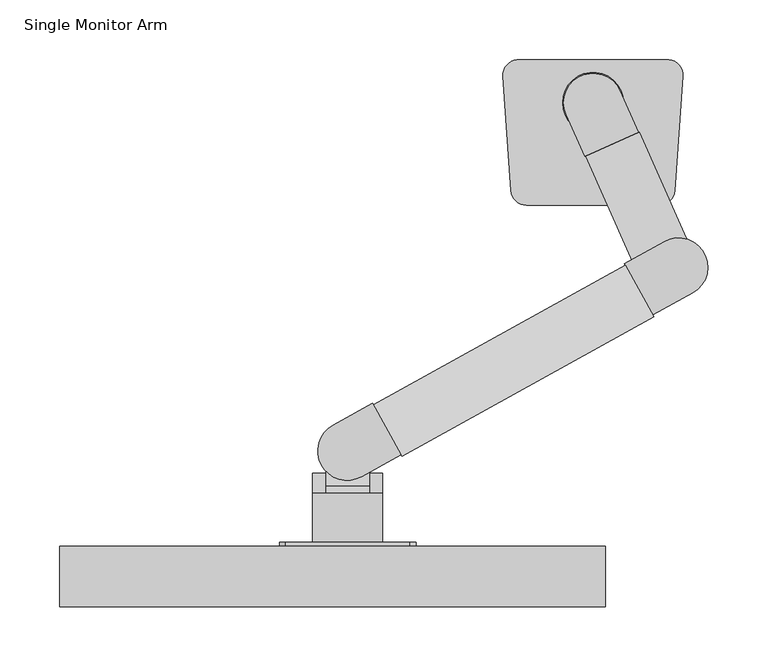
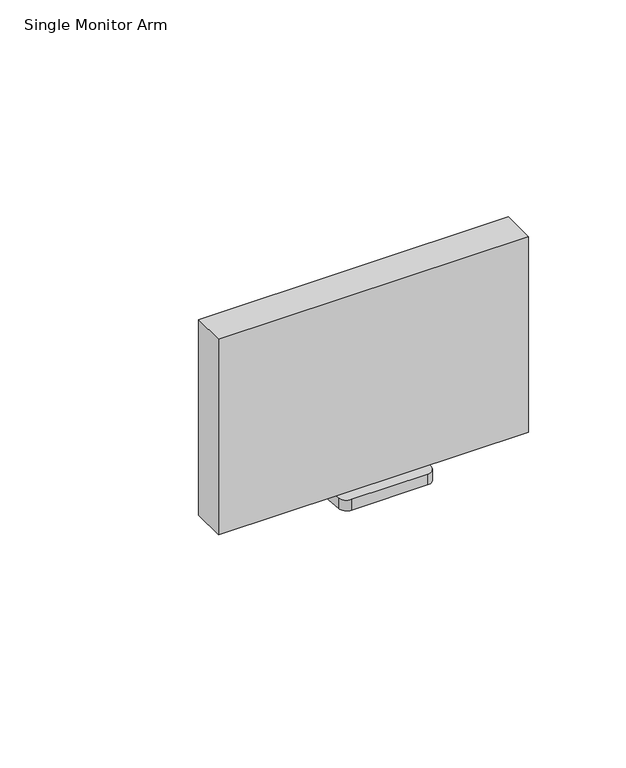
"""IFC4 building model written with IfcOpenShell, lengths in millimetres: furniture geometry, Haworth_Ergotron_MonitorArm_LX Dual : Single Monitor Arm."""

import ifcopenshell
import ifcopenshell.guid

model = None  # the IFC model being written
_history = None  # IfcOwnerHistory: only IFC2X3 demands one
_inside = {}  # id of a spatial element -> (the spatial element, [elements in it])
_under = {}  # id of a project, library or spatial element -> (it, [spatial elements below it])
_declared = {}  # id of a project -> (the project, [libraries it declares])
_typed = {}  # id of a type object -> (the type object, [elements of that type])
_made_of = {}  # id of a material, layer set ... -> (it, [elements and type objects made of it])


def new_model(schema):
    """Start an empty IFC model of exactly this schema.

    Asked for "IFC4X3", IfcOpenShell would pick the latest addendum, in which some entities
    have other attributes; the version numbers below select the first issue.
    IFC2X3 requires an IfcOwnerHistory on every rooted entity: one is made here for all.
    """
    global model, _history
    if schema == "IFC4X3":
        model = ifcopenshell.file(schema_version=(4, 3, 0, 0))
    else:
        model = ifcopenshell.file(schema=schema)
    _inside.clear()
    _under.clear()
    _declared.clear()
    _typed.clear()
    _made_of.clear()
    _history = None
    if model.schema == "IFC2X3":
        org = make("IfcOrganization", Name="unknown")
        user = make(
            "IfcPersonAndOrganization",
            ThePerson=make("IfcPerson", FamilyName="unknown"),
            TheOrganization=org,
        )
        app = make(
            "IfcApplication",
            ApplicationDeveloper=org,
            Version="unknown",
            ApplicationFullName="unknown",
            ApplicationIdentifier="unknown",
        )
        _history = make(
            "IfcOwnerHistory",
            OwningUser=user,
            OwningApplication=app,
            ChangeAction="ADDED",
            CreationDate=0,
        )
    return model


def make(cls, **values):
    """One entity of the class cls with the attributes given. An attribute that is None is left unset."""
    return model.create_entity(
        cls, **{name: value for name, value in values.items() if value is not None}
    )


def rooted(cls, **values):
    """An entity with a GlobalId (a new one), such as an element, a storey or a relation."""
    return make(cls, GlobalId=ifcopenshell.guid.new(), OwnerHistory=_history, **values)


def si_unit(unit_type, name, prefix=None):
    """IfcSIUnit, for example si_unit("LENGTHUNIT", "METRE", prefix="MILLI")."""
    return make("IfcSIUnit", UnitType=unit_type, Prefix=prefix, Name=name)


def assignment(units):
    """IfcUnitAssignment: the units of a project."""
    return None if units is None else make("IfcUnitAssignment", Units=units)


def point(xyz):
    """IfcCartesianPoint."""
    return None if xyz is None else make("IfcCartesianPoint", Coordinates=xyz)


def direction(xyz):
    """IfcDirection."""
    return None if xyz is None else make("IfcDirection", DirectionRatios=xyz)


def frame(location, z_axis=None, x_axis=None):
    """IfcAxis2Placement3D, a coordinate frame: its origin and axes. An axis left out is left unset."""
    return make(
        "IfcAxis2Placement3D",
        Location=point(location),
        Axis=direction(z_axis),
        RefDirection=direction(x_axis),
    )


def frame_2d(location, x_axis=None):
    """IfcAxis2Placement2D, a coordinate frame in the plane: its origin and x axis."""
    return make(
        "IfcAxis2Placement2D", Location=point(location), RefDirection=direction(x_axis)
    )


def origin():
    """The frame at (0, 0, 0) with its axes left unset."""
    return frame((0.0, 0.0, 0.0))


def origin_2d():
    """The frame at (0, 0) in the plane with its x axis left unset."""
    return frame_2d((0.0, 0.0))


def place(relative_to, where):
    """IfcLocalPlacement: puts the frame where relative to a parent placement (None: the world)."""
    return make(
        "IfcLocalPlacement", PlacementRelTo=relative_to, RelativePlacement=where
    )


def context(
    kind, dimensions, precision=None, world=None, true_north=None, identifier=None
):
    """IfcGeometricRepresentationContext, for example the 3D "Model" context."""
    return make(
        "IfcGeometricRepresentationContext",
        ContextIdentifier=identifier,
        ContextType=kind,
        CoordinateSpaceDimension=dimensions,
        Precision=precision,
        WorldCoordinateSystem=world,
        TrueNorth=true_north,
    )


def project(units=None, contexts=None):
    """IfcProject with its units and contexts."""
    return rooted(
        "IfcProject",
        Name="project",
        RepresentationContexts=contexts,
        UnitsInContext=assignment(units),
    )


def spatial(cls, under=None, at=None, **own):
    """A site, building, storey or space (cls), placed at a placement, below another one or the project."""
    s = rooted(cls, ObjectPlacement=at, **own)
    if under is not None:
        _under.setdefault(under.id(), (under, []))[1].append(s)
    return s


def polyline(points):
    """IfcPolyline through the points."""
    return make("IfcPolyline", Points=[point(p) for p in points])


def circle_curve(where, radius):
    """IfcCircle in the frame where."""
    return make("IfcCircle", Position=where, Radius=radius)


def ellipse_curve(where, semi_axis1, semi_axis2):
    """IfcEllipse in the frame where."""
    return make(
        "IfcEllipse", Position=where, SemiAxis1=semi_axis1, SemiAxis2=semi_axis2
    )


def trimmed(basis, trim1, trim2, sense, master):
    """IfcTrimmedCurve: the piece of a basis curve between two trims."""
    return make(
        "IfcTrimmedCurve",
        BasisCurve=basis,
        Trim1=trim1,
        Trim2=trim2,
        SenseAgreement=sense,
        MasterRepresentation=master,
    )


def segment(curve, same_sense, transition):
    """IfcCompositeCurveSegment."""
    return make(
        "IfcCompositeCurveSegment",
        Transition=transition,
        SameSense=same_sense,
        ParentCurve=curve,
    )


def composite_curve(segments, self_intersect=None):
    """IfcCompositeCurve: segments joined end to end."""
    return make("IfcCompositeCurve", Segments=segments, SelfIntersect=self_intersect)


def outline(outer, holes=None, kind="AREA"):
    """IfcArbitraryClosedProfileDef: a profile drawn as a closed curve; with holes, ...WithVoids."""
    if holes is None:
        return make("IfcArbitraryClosedProfileDef", ProfileType=kind, OuterCurve=outer)
    return make(
        "IfcArbitraryProfileDefWithVoids",
        ProfileType=kind,
        OuterCurve=outer,
        InnerCurves=holes,
    )


def extrude(swept, where, along, depth):
    """IfcExtrudedAreaSolid: the profile swept, set in the frame where, extruded along a direction by depth."""
    return make(
        "IfcExtrudedAreaSolid",
        SweptArea=swept,
        Position=where,
        ExtrudedDirection=direction(along),
        Depth=depth,
    )


def shape(context_of_items, identifier, shape_type, items):
    """IfcShapeRepresentation: the items that make up one representation, for example the "Body"."""
    return make(
        "IfcShapeRepresentation",
        ContextOfItems=context_of_items,
        RepresentationIdentifier=identifier,
        RepresentationType=shape_type,
        Items=items,
    )


def source(mapping_origin, context_of_items, identifier, shape_type, items):
    """IfcRepresentationMap: a shape defined once, which mapped items show again and again."""
    return make(
        "IfcRepresentationMap",
        MappingOrigin=mapping_origin,
        MappedRepresentation=shape(context_of_items, identifier, shape_type, items),
    )


def transform(
    local_origin,
    x_axis=None,
    y_axis=None,
    z_axis=None,
    scale=None,
    scale2=None,
    scale3=None,
    uniform=True,
):
    """IfcCartesianTransformationOperator3D, or its non-uniform kind. x_axis, y_axis, z_axis: its Axis1, 2, 3."""
    if uniform:
        return make(
            "IfcCartesianTransformationOperator3D",
            Axis1=direction(x_axis),
            Axis2=direction(y_axis),
            LocalOrigin=point(local_origin),
            Scale=scale,
            Axis3=direction(z_axis),
        )
    return make(
        "IfcCartesianTransformationOperator3DnonUniform",
        Axis1=direction(x_axis),
        Axis2=direction(y_axis),
        LocalOrigin=point(local_origin),
        Scale=scale,
        Axis3=direction(z_axis),
        Scale2=scale2,
        Scale3=scale3,
    )


def mapped(mapping_source, mapping_target):
    """IfcMappedItem: shows the shape of a source again, moved by a transform."""
    return make(
        "IfcMappedItem", MappingSource=mapping_source, MappingTarget=mapping_target
    )


def made_of(thing, what):
    """Note that an element or type object is made of a material, layer set ...; save() writes the relation."""
    if what is not None:
        _made_of.setdefault(what.id(), (what, []))[1].append(thing)
    return thing


def element(
    cls,
    number,
    at=None,
    inside=None,
    cuts=None,
    type_object=None,
    material=None,
    context=None,
    identifier="Body",
    shape_type=None,
    held_by="IfcProductDefinitionShape",
    body=None,
    shapes=None,
    **own,
):
    """One element of the class cls, such as IfcWall. Its Tag is "e" and its number.

    at: its placement. inside: the storey or other place that contains it. cuts: it is an
    opening in that element (IfcRelVoidsElement). A single representation is given by context,
    identifier, shape_type and body (its items); several are given by shapes. held_by: the class
    of the entity that holds the representations. save() writes the other relations.
    """
    e = rooted(cls, Tag="e%d" % number, ObjectPlacement=at, **own)
    if body is not None:
        shapes = [shape(context, identifier, shape_type, body)]
    if shapes is not None:
        e.Representation = make(held_by, Representations=shapes)
    if inside is not None:
        _inside.setdefault(inside.id(), (inside, []))[1].append(e)
    if cuts is not None:
        rooted(
            "IfcRelVoidsElement", RelatingBuildingElement=cuts, RelatedOpeningElement=e
        )
    if type_object is not None:
        _typed.setdefault(type_object.id(), (type_object, []))[1].append(e)
    return made_of(e, material)


def aggregate(whole, parts):
    """IfcRelAggregates: a whole, such as a stair, and the parts it consists of."""
    return rooted("IfcRelAggregates", RelatingObject=whole, RelatedObjects=parts)


def save(model, path):
    """Write the relations noted so far, then the file.

    IfcRelAggregates (storeys below a building ...), IfcRelContainedInSpatialStructure (elements
    in a storey), IfcRelDefinesByType, IfcRelAssociatesMaterial and IfcRelDeclares: one each for
    every whole, place, type object, material and project.
    """
    for whole, parts in _under.values():
        aggregate(whole, parts)
    for where, things in _inside.values():
        rooted(
            "IfcRelContainedInSpatialStructure",
            RelatedElements=things,
            RelatingStructure=where,
        )
    for kind, things in _typed.values():
        rooted("IfcRelDefinesByType", RelatedObjects=things, RelatingType=kind)
    for what, things in _made_of.values():
        rooted("IfcRelAssociatesMaterial", RelatedObjects=things, RelatingMaterial=what)
    for by, libraries in _declared.values():
        rooted("IfcRelDeclares", RelatingContext=by, RelatedDefinitions=libraries)
    model.write(path)


def plane_surface(at):
    """IfcPlane: the flat surface through the origin of the frame at, square to its z axis."""
    return make("IfcPlane", Position=at)


def cylinder_surface(at, radius):
    """IfcCylindricalSurface: all points at the distance radius from the z axis of the frame at."""
    return make("IfcCylindricalSurface", Position=at, Radius=radius)


def advanced_brep(points, edges, surfaces, faces):
    """IfcAdvancedBrep: a solid bounded by faces that lie on surfaces and meet in shared edges.

    An edge is (start, end): straight between two places in points (the first is 0);
    or (start, end, curve); or (start, end, curve, False) where it runs against its curve.
    A face is (place in surfaces, loops), or (place, loops, False) where it looks against
    its surface's normal. A loop lists edges by number (the first is 1), with a minus sign
    where the edge is run from its end to its start. The first loop is the outer one.
    """
    corners = [point(p) for p in points]
    vertices = [make("IfcVertexPoint", VertexGeometry=c) for c in corners]
    made = []
    for start, end, *more in edges:
        made.append(
            make(
                "IfcEdgeCurve",
                EdgeStart=vertices[start],
                EdgeEnd=vertices[end],
                EdgeGeometry=more[0] if more else make("IfcPolyline", Points=[corners[start], corners[end]]),
                SameSense=more[1] if len(more) > 1 else True,
            )
        )
    hull = []
    for where, loops, *sense in faces:
        bounds = []
        for j, loop in enumerate(loops):
            ring = [make("IfcOrientedEdge", EdgeElement=made[abs(k) - 1], Orientation=k > 0) for k in loop]
            bounds.append(
                make(
                    "IfcFaceOuterBound" if j == 0 else "IfcFaceBound",
                    Bound=make("IfcEdgeLoop", EdgeList=ring),
                    Orientation=True,
                )
            )
        hull.append(make("IfcAdvancedFace", Bounds=bounds, FaceSurface=surfaces[where], SameSense=sense[0] if sense else True))
    return make("IfcAdvancedBrep", Outer=make("IfcClosedShell", CfsFaces=hull))


def single_monitor_arm_d5a820ab(model_context):
    return source(origin(), model_context, "Body", "SolidModel", [
        advanced_brep(
        [(-234.9867613, -326.9752733, 1198.4054298), (-234.9867613, -368.2502733, 1198.4054298), (-176.2492613, -368.2502733, 1198.4054298), (-176.2492613, -326.9752733, 1198.4054298), (-187.3617613, -326.9752733, 1198.4054298), (-223.8742613, -326.9752733, 1198.4054298), (-223.8742613, -299.9877733, 1165.8616798), (-187.3617613, -299.9877733, 1165.8616798), (-187.3617613, -320.6605799, 1165.8616798), (-223.8742613, -320.6605799, 1165.8616798), (-223.8742613, -317.4502733, 1168.1178601), (-223.8742613, -320.8989576, 1197.2367104), (-223.8742613, -299.9877733, 1188.9613663), (-187.3617613, -299.9877733, 1188.9613663), (-187.3617613, -320.8989576, 1197.2367104), (-187.3617613, -317.4502733, 1168.1178601), (-205.6180113, -281.7315233, 1181.7366798), (-234.9867613, -317.4502733, 1168.1178601), (-234.9867613, -357.9315233, 1139.6679298), (-234.9867613, -368.2502733, 1139.6679298), (-234.9867613, -320.8989576, 1197.2367104), (-176.2492613, -368.2502733, 1139.6679298), (-176.2492613, -357.9315233, 1139.6679298), (-176.2492613, -317.4502733, 1168.1178601), (-176.2492613, -320.8989576, 1197.2367104)],
        [
            (0, 1),
            (1, 2),
            (2, 3),
            (3, 4),
            (4, 5),
            (5, 0),
            (6, 7, circle_curve(frame((-205.6180113, -299.9877733, 1165.8616798), z_axis=(0.0, 0.0, -1.0), x_axis=(-1.0, 0.0, 0.0)), 18.25625)),
            (7, 8),
            (8, 9),
            (9, 6),
            (9, 10),
            (10, 11, circle_curve(frame((-223.8742613, -327.0287892, 1181.747078), z_axis=(1.0, 0.0, 0.0), x_axis=(0.0, 1.0, 0.0)), 16.6584377)),
            (11, 12),
            (12, 6),
            (7, 13),
            (13, 14),
            (14, 15, circle_curve(frame((-187.3617613, -327.0287892, 1181.747078), z_axis=(-1.0, 0.0, 0.0), x_axis=(0.0, 1.0, 0.0)), 16.6584377)),
            (15, 8),
            (12, 16, ellipse_curve(frame((-205.6180113, -299.9877733, 1188.9613663), z_axis=(0.0, -0.3679715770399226, -0.9298370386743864), x_axis=(0.0, -0.9298370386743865, 0.3679715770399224)), 19.6338167, 18.25625)),
            (16, 13, ellipse_curve(frame((-205.6180113, -299.9877733, 1188.9613663), z_axis=(0.0, -0.3679715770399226, -0.9298370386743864), x_axis=(0.0, -0.9298370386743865, 0.3679715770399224)), 19.6338167, 18.25625)),
            (11, 14),
            (11, 5, circle_curve(frame((-223.8742613, -327.0287892, 1181.747078), z_axis=(1.0, 0.0, 0.0), x_axis=(0.0, 1.0, 0.0)), 16.6584377)),
            (4, 14, circle_curve(frame((-187.3617613, -327.0287892, 1181.747078), z_axis=(-1.0, 0.0, 0.0), x_axis=(0.0, 1.0, 0.0)), 16.6584377)),
            (17, 18),
            (18, 19),
            (19, 1),
            (0, 20, circle_curve(frame((-234.9867613, -327.0287892, 1181.747078), z_axis=(-1.0, 0.0, 0.0), x_axis=(0.0, 1.0, 0.0)), 16.6584377)),
            (20, 17, circle_curve(frame((-234.9867613, -327.0287892, 1181.747078), z_axis=(-1.0, 0.0, 0.0), x_axis=(0.0, 1.0, 0.0)), 16.6584377)),
            (2, 21),
            (21, 22),
            (22, 23),
            (23, 24, circle_curve(frame((-176.2492613, -327.0287892, 1181.747078), z_axis=(1.0, 0.0, 0.0), x_axis=(0.0, 1.0, 0.0)), 16.6584377)),
            (24, 3, circle_curve(frame((-176.2492613, -327.0287892, 1181.747078), z_axis=(1.0, 0.0, 0.0), x_axis=(0.0, 1.0, 0.0)), 16.6584377)),
            (23, 15),
            (10, 17),
            (22, 18),
            (21, 19),
        ],
        [
            plane_surface(frame((-223.8742613, -299.9877733, 1198.4054298), z_axis=(0.0, 0.0, 1.0), x_axis=(0.0, -1.0, 0.0))),
            plane_surface(frame((-223.8742613, -299.9877733, 1165.8616798), z_axis=(0.0, 0.0, -1.0), x_axis=(0.0, 1.0, 0.0))),
            plane_surface(frame((-223.8742613, -299.9877733, 1198.4054298), z_axis=(-1.0, 0.0, 0.0), x_axis=(0.0, 0.0, -1.0))),
            plane_surface(frame((-187.3617613, -326.9752733, 1198.4054298), z_axis=(1.0, 0.0, 0.0), x_axis=(0.0, 0.0, -1.0))),
            cylinder_surface(frame((-205.6180113, -299.9877733, 1165.8616798), z_axis=(0.0, 0.0, 1.0), x_axis=(-1.0, 0.0, 0.0)), 18.25625),
            plane_surface(frame((-237.3680113, -281.7315233, 1181.7366798), z_axis=(0.0, 0.3679715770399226, 0.9298370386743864), x_axis=(1.0, 0.0, 0.0))),
            cylinder_surface(frame((-173.8680113, -327.0287892, 1181.747078), z_axis=(1.0, 0.0, 0.0), x_axis=(0.0, 1.0, 0.0)), 16.6584377),
            plane_surface(frame((-234.9867613, -310.3703515, 1181.747078), z_axis=(-1.0, 0.0, 0.0), x_axis=(0.0, 0.0, -1.0))),
            plane_surface(frame((-176.2492613, -310.3703515, 1181.747078), z_axis=(1.0, 0.0, 0.0), x_axis=(0.0, 0.0, 1.0))),
            cylinder_surface(frame((-176.2492613, -327.0287892, 1181.747078), z_axis=(-1.0, 0.0, 0.0), x_axis=(0.0, 1.0, 0.0)), 16.6584377),
            plane_surface(frame((-234.9867613, -317.4502733, 1168.1178601), z_axis=(0.0, 0.574994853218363, -0.8181570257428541), x_axis=(1.0, 0.0, 0.0))),
            plane_surface(frame((-234.9867613, -357.9315233, 1139.6679298), z_axis=(0.0, 0.0, -1.0), x_axis=(1.0, 0.0, 0.0))),
            plane_surface(frame((-234.9867613, -368.2502733, 1139.6679298), z_axis=(0.0, -1.0, 0.0), x_axis=(1.0, 0.0, 0.0))),
        ],
        [
            (0, [[1, 2, 3, 4, 5, 6]]),
            (1, [[7, 8, 9, 10]]),
            (2, [[-10, 11, 12, 13, 14]]),
            (3, [[-8, 15, 16, 17, 18]]),
            (4, [[-7, -14, 19, 20, -15]]),
            (5, [[21, -16, -20, -19, -13]]),
            (6, [[-21, 22, -5, 23]]),
            (7, [[24, 25, 26, -1, 27, 28]]),
            (8, [[-3, 29, 30, 31, 32, 33]]),
            (9, [[-4, -33, -32, 34, -17, -23]]),
            (9, [[-6, -22, -12, 35, -28, -27]]),
            (10, [[-24, -35, -11, -9, -18, -34, -31, 36]]),
            (11, [[-25, -36, -30, 37]]),
            (12, [[-26, -37, -29, -2]]),
        ],
    ),
        extrude(outline(polyline([(1226.1866798, -153.2305113), (1226.1866798, -258.0055113), (1221.4241798, -262.7680113), (1116.6491798, -262.7680113), (1111.8866798, -258.0055113), (1111.8866798, -153.2305113), (1116.6491798, -148.4680113), (1221.4241798, -148.4680113), (1226.1866798, -153.2305113)])), frame((0.0, -371.4252733, 0.0), z_axis=(0.0, 1.0, 0.0), x_axis=(0.0, 0.0, 1.0)), (0.0, 0.0, 1.0), 3.175),
        extrude(outline(polyline([(10.2819887, -422.2252733), (-446.9180113, -422.2252733), (-446.9180113, -371.4252733), (10.2819887, -371.4252733), (10.2819887, -422.2252733)])), frame((0.0, 0.0, 1038.8616798), z_axis=(0.0, 0.0, 1.0), x_axis=(1.0, 0.0, 0.0)), (0.0, 0.0, 1.0), 304.8),
        extrude(outline(polyline([(-25.796875, 0.0), (25.796875, 0.0), (-115.490625, -133.35), (-166.290625, -133.35), (-25.796875, 0.0)])), frame((-6.1607448, -44.7079943, 820.2720058), z_axis=(0.9135454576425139, 0.4067366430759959, 0.0), x_axis=(0.0, 0.0, -1.0)), (0.0, 0.0, 1.0), 49.2125),
        extrude(outline(composite_curve([segment(trimmed(circle_curve(origin_2d(), 24.60625), [point((-22.4789279, -10.0082635))], [point((22.4789279, 10.0082635))], False, "CARTESIAN"), True, "CONTINUOUS"), segment(polyline([(22.4789279, 10.0082635), (37.975594, -24.7978184), (-6.9822618, -44.8143455), (-22.4789279, -10.0082635)]), True, "CONTINUOUS")], self_intersect=False)), frame((0.0, 0.0, 794.4751308), z_axis=(0.0, 0.0, 1.0), x_axis=(1.0, 0.0, 0.0)), (0.0, 0.0, 1.0), 51.59375),
        extrude(outline(composite_curve([segment(trimmed(circle_curve(frame_2d((-206.0459469, -291.6894928)), 24.60625), [point((-194.1166001, -313.2106039))], [point((-217.9752936, -270.1683816))], False, "CARTESIAN"), True, "CONTINUOUS"), segment(polyline([(-217.9752936, -270.1683816), (-184.6522827, -251.6971351), (-160.7935893, -294.7393574), (-194.1166001, -313.2106039)]), True, "CONTINUOUS")], self_intersect=False)), frame((0.0, 0.0, 1158.2891061), z_axis=(0.0, 0.0, 1.0), x_axis=(1.0, 0.0, 0.0)), (0.0, 0.0, 1.0), 51.3858939),
        extrude(outline(polyline([(-25.796875, 0.0), (25.796875, 0.0), (229.790625, -241.3), (178.990625, -241.3), (-25.796875, 0.0)])), frame((51.0217813, -179.1432548, 979.884375), z_axis=(-0.48480962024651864, 0.8746197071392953, 0.0), x_axis=(0.0, 0.0, 1.0)), (0.0, 0.0, 1.0), 49.2125),
        extrude(outline(composite_curve([segment(trimmed(circle_curve(frame_2d((71.6458101, -137.7624383)), 24.60625), [point((59.7164634, -116.2413272))], [point((83.5751569, -159.2835495))], False, "CARTESIAN"), True, "CONTINUOUS"), segment(polyline([(83.5751569, -159.2835495), (50.252146, -177.754796), (26.3934526, -134.7125737), (59.7164634, -116.2413272)]), True, "CONTINUOUS")], self_intersect=False)), frame((0.0, 0.0, 954.0875), z_axis=(0.0, 0.0, 1.0), x_axis=(1.0, 0.0, 0.0)), (0.0, 0.0, 1.0), 51.59375),
        extrude(outline(composite_curve([segment(trimmed(circle_curve(frame_2d((-62.6611672, 23.2932295)), 12.7), [point((-75.3302307, 22.4073223))], [point((-63.6792792, 35.9523546))], False, "CARTESIAN"), True, "CONTINUOUS"), segment(trimmed(circle_curve(frame_2d((0.0, -755.8308364)), 794.3397712), [point((-63.6792792, 35.9523546))], [point((63.6792792, 35.9523546))], False, "CARTESIAN"), True, "CONTINUOUS"), segment(trimmed(circle_curve(frame_2d((62.6611672, 23.2932295)), 12.7), [point((63.6792792, 35.9523546))], [point((75.3302307, 22.4073223))], False, "CARTESIAN"), True, "CONTINUOUS"), segment(polyline([(75.3302307, 22.4073223), (68.5984812, -73.8611805)]), True, "CONTINUOUS"), segment(trimmed(circle_curve(frame_2d((55.9294177, -72.9752733)), 12.7), [point((68.5984812, -73.8611805))], [point((55.9294177, -85.6752733))], False, "CARTESIAN"), True, "CONTINUOUS"), segment(polyline([(55.9294177, -85.6752733), (-55.9294177, -85.6752733)]), True, "CONTINUOUS"), segment(trimmed(circle_curve(frame_2d((-55.9294177, -72.9752733)), 12.7), [point((-55.9294177, -85.6752733))], [point((-68.5984812, -73.8611805))], False, "CARTESIAN"), True, "CONTINUOUS"), segment(polyline([(-68.5984812, -73.8611805), (-75.3302307, 22.4073223)]), True, "CONTINUOUS")], self_intersect=False)), frame((0.0, 0.0, 736.6), z_axis=(0.0, 0.0, 1.0), x_axis=(1.0, 0.0, 0.0)), (0.0, 0.0, 1.0), 16.66875),
        extrude(outline(composite_curve([segment(trimmed(circle_curve(origin_2d(), 25.4), [point((-25.4, 0.0))], [point((25.4, 0.0))], False, "CARTESIAN"), True, "CONTINUOUS"), segment(trimmed(circle_curve(origin_2d(), 25.4), [point((25.4, 0.0))], [point((-25.4, 0.0))], False, "CARTESIAN"), True, "CONTINUOUS")], self_intersect=False)), frame((0.0, 0.0, 753.26875), z_axis=(0.0, 0.0, 1.0), x_axis=(1.0, 0.0, 0.0)), (0.0, 0.0, 1.0), 41.2063808),
    ])


if __name__ == "__main__":
    model = new_model("IFC4")
    model_context = context("Model", 3, world=origin())
    ifc_project = project(units=[si_unit("LENGTHUNIT", "METRE", prefix="MILLI")], contexts=[model_context])
    site = spatial("IfcSite", under=ifc_project)
    building = spatial("IfcBuilding", under=site)
    placement = place(None, origin())
    single_monitor_arm_shape = single_monitor_arm_d5a820ab(model_context)
    element("IfcFurniture", 1, ObjectType="Haworth_Ergotron_MonitorArm_LX Dual : Single Monitor Arm", at=placement, inside=building, context=model_context, shape_type="MappedRepresentation", body=[
        mapped(single_monitor_arm_shape, transform((0.0, 0.0, 0.0), x_axis=(1.0, 0.0, 0.0), y_axis=(0.0, 1.0, 0.0), z_axis=(0.0, 0.0, 1.0))),
    ])
    save(model, "model.ifc")
